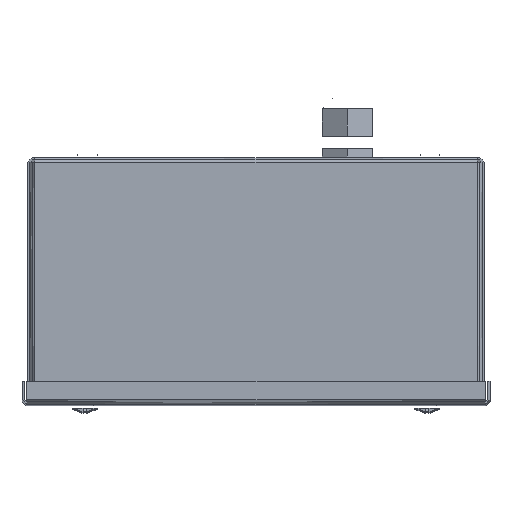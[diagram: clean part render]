
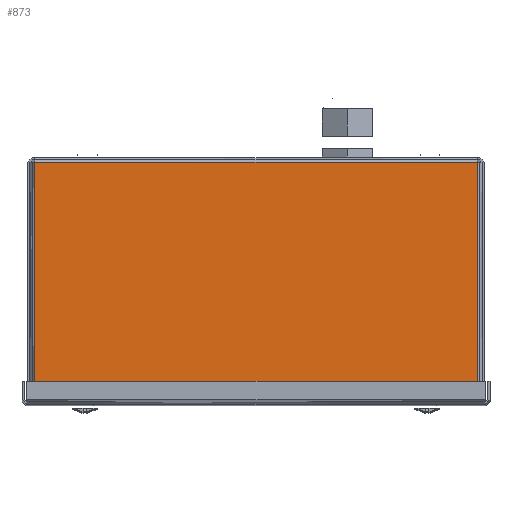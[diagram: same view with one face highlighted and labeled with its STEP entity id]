
A CAD part, top view. The second image highlights one B-rep face of the part: STEP entity #873.
In plain terms, the highlighted planar face has unit normal (0, 0, 1).
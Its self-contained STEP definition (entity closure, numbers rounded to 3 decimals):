
#64=B_SPLINE_CURVE_WITH_KNOTS('',1,(#7355,#7356),.UNSPECIFIED.,.F.,.F.,
(2,2),(2.,105.),.UNSPECIFIED.);
#65=B_SPLINE_CURVE_WITH_KNOTS('',1,(#7357,#7358),.UNSPECIFIED.,.F.,.F.,
(2,2),(-197.,-3.),.UNSPECIFIED.);
#66=B_SPLINE_CURVE_WITH_KNOTS('',1,(#7359,#7360),.UNSPECIFIED.,.F.,.F.,
(2,2),(-105.,-2.),.UNSPECIFIED.);
#67=B_SPLINE_CURVE_WITH_KNOTS('',1,(#7361,#7362),.UNSPECIFIED.,.F.,.F.,
(2,2),(-197.,-3.),.UNSPECIFIED.);
#873=ADVANCED_FACE('',(#1291),#5210,.T.);
#1291=FACE_OUTER_BOUND('',#1667,.T.);
#1667=EDGE_LOOP('',(#2309,#2310,#2311,#2312));
#2309=ORIENTED_EDGE('',*,*,#3733,.F.);
#2310=ORIENTED_EDGE('',*,*,#3732,.F.);
#2311=ORIENTED_EDGE('',*,*,#3731,.T.);
#2312=ORIENTED_EDGE('',*,*,#3730,.F.);
#3730=EDGE_CURVE('',#4683,#4678,#64,.T.);
#3731=EDGE_CURVE('',#4651,#4678,#65,.T.);
#3732=EDGE_CURVE('',#4651,#4652,#66,.T.);
#3733=EDGE_CURVE('',#4652,#4683,#67,.T.);
#4651=VERTEX_POINT('',#7022);
#4652=VERTEX_POINT('',#7023);
#4678=VERTEX_POINT('',#7049);
#4683=VERTEX_POINT('',#7054);
#5210=PLANE('',#5585);
#5585=AXIS2_PLACEMENT_3D('',#6708,#5844,$);
#5844=DIRECTION('',(0.,0.,1.));
#6708=CARTESIAN_POINT('',(-84.,2.,405.));
#7022=CARTESIAN_POINT('',(110.,105.,405.));
#7023=CARTESIAN_POINT('',(110.,2.,405.));
#7049=CARTESIAN_POINT('',(-84.,105.,405.));
#7054=CARTESIAN_POINT('',(-84.,2.,405.));
#7355=CARTESIAN_POINT('',(-84.,2.,405.));
#7356=CARTESIAN_POINT('',(-84.,105.,405.));
#7357=CARTESIAN_POINT('',(110.,105.,405.));
#7358=CARTESIAN_POINT('',(-84.,105.,405.));
#7359=CARTESIAN_POINT('',(110.,105.,405.));
#7360=CARTESIAN_POINT('',(110.,2.,405.));
#7361=CARTESIAN_POINT('',(110.,2.,405.));
#7362=CARTESIAN_POINT('',(-84.,2.,405.));
